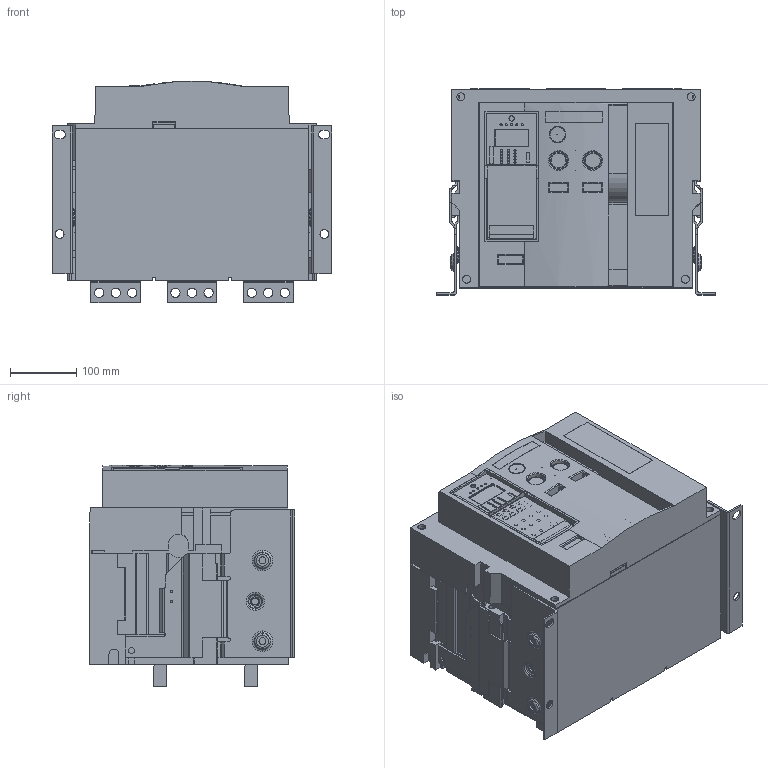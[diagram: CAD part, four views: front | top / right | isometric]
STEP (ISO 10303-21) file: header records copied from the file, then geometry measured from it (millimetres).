
FILE_DESCRIPTION (( 'STEP AP214' ), '1' );
FILE_NAME ('OptiMat A-S4-BH-2500-3200-3P-F-H.STEP', '2023-08-01T06:51:03', ( '' ), ( '' ), 'SwSTEP 2.0', 'SolidWorks 2018', '' );
FILE_SCHEMA (( 'AUTOMOTIVE_DESIGN' ));
Length unit declared in the file: millimetre
Products named in the file (1): OptiMat A-S4-BH-2500-3200-3P-F-H
Bounding box: 421 x 310.5 x 333.81 mm (x, y, z)
Volume: 28025089.7 mm3; surface area: 1481869.3 mm2
Topology: 12 solids, 33 shells, 2973 faces, 8246 edges, 5424 vertices
Faces by surface type: plane 1891, cylinder 814, cone 121, torus 113, bspline 34
Entity records: 134326 total; most frequent: CARTESIAN_POINT 24371, ORIENTED_EDGE 16472, DIRECTION 15867, EDGE_CURVE 8236, LINE 5807, VECTOR 5807, VERTEX_POINT 5424, AXIS2_PLACEMENT_3D 5030
